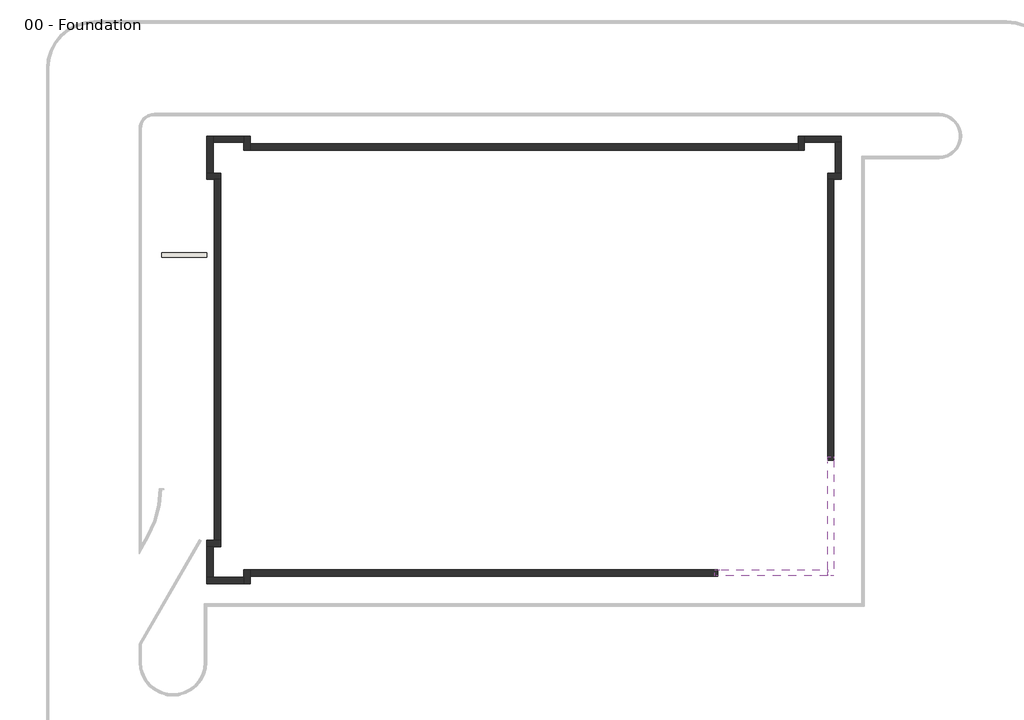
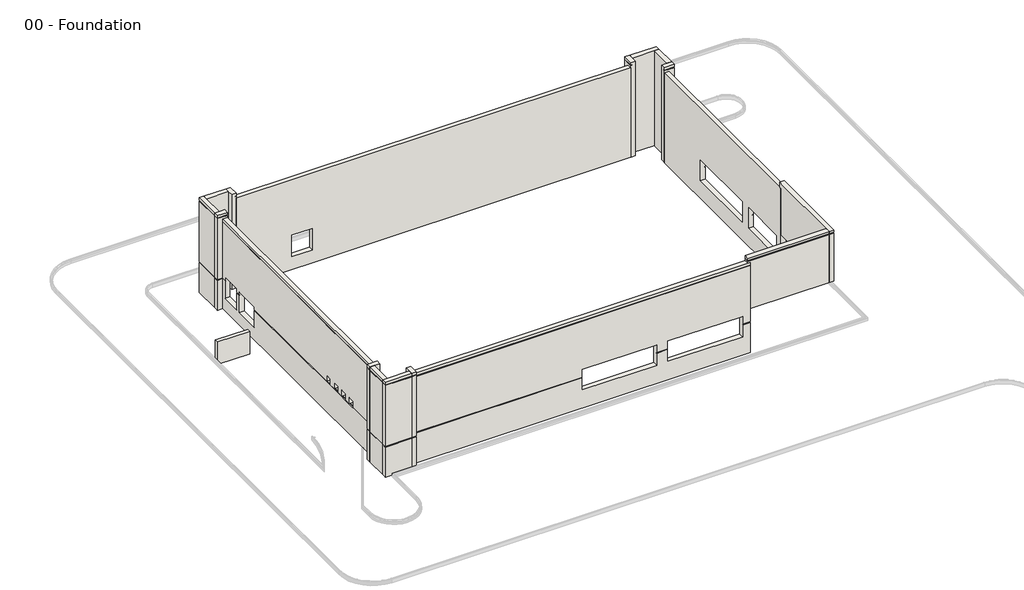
# One storey, part 1 of 2: 19 walls.
"""IFC4 building model written with IfcOpenShell, lengths in millimetres."""

from ifc_helpers import new_model, si_unit, frame, origin, place, context, project, spatial, polyline, outline, extrude, faceted_brep, element, save

model = new_model("IFC4")

# Units and contexts
model_context = context("Model", 3, world=origin())
ifc_project = project(units=[si_unit("LENGTHUNIT", "METRE", prefix="MILLI")], contexts=[model_context])

# Site, building, storey
site = spatial("IfcSite", under=ifc_project)
building = spatial("IfcBuilding", under=site)
storey = spatial("IfcBuildingStorey", under=building, Name="00 - Foundation", Elevation=-1250.0)

# Walls
placement = place(None, origin())
element("IfcWall", 1, ObjectType="Exterior - Render on Brick on Block @ Entry", at=placement, inside=storey, context=model_context, shape_type="Brep", body=[
    faceted_brep([(18351.5272279, -6696.4313057, 3000.0), (18351.5272279, -13977.9313057, 3000.0), (18351.5272279, -14406.9313057, 3000.0), (18351.5272279, -14406.9313057, 7700.0), (18351.5272279, -14331.9313057, 7700.0), (18351.5272279, -14331.9313057, 7775.0), (18351.5272279, -14406.9313057, 7775.0), (18351.5272279, -14406.9313057, 8000.0), (18351.5272279, -13977.9313057, 8000.0), (18351.5272279, -6910.9313057, 8000.0), (18351.5272279, -6481.9313057, 8000.0), (18351.5272279, -6481.9313057, 7775.0), (18351.5272279, -6556.9313057, 7775.0), (18351.5272279, -6556.9313057, 7700.0), (18351.5272279, -6481.9313057, 7700.0), (18351.5272279, -6481.9313057, 7500.0), (18351.5272279, -6696.4313057, 7500.0), (18780.5272279, -14406.9313057, 3000.0), (18780.5272279, -6696.4313057, 3000.0), (18780.5272279, -6696.4313057, 7200.0), (18780.5272279, -6696.4313057, 7275.0), (18780.5272279, -6696.4313057, 7500.0), (18780.5272279, -6481.9313057, 7500.0), (18780.5272279, -6481.9313057, 7700.0), (18780.5272279, -14406.9313057, 7700.0), (18780.5272279, -6481.9313057, 8000.0), (18780.5272279, -14406.9313057, 8000.0), (18780.5272279, -14406.9313057, 7775.0), (18780.5272279, -6481.9313057, 7775.0), (18705.5272279, -6556.9313057, 7700.0), (18705.5272279, -6556.9313057, 7775.0), (18705.5272279, -14331.9313057, 7775.0), (18705.5272279, -14331.9313057, 7700.0)], [[[0, 1, 2, 3, 4, 5, 6, 7, 8, 9, 10, 11, 12, 13, 14, 15, 16]], [[17, 18, 19, 20, 21, 22, 23, 24]], [[25, 26, 27, 28]], [[2, 1, 0, 18, 17]], [[10, 9, 8, 7, 26, 25]], [[29, 30, 31, 32]], [[2, 17, 24, 3]], [[26, 7, 6, 27]], [[31, 30, 12, 11, 28, 27, 6, 5]], [[29, 32, 4, 3, 24, 23, 14, 13]], [[30, 29, 13, 12]], [[32, 31, 5, 4]], [[18, 0, 16, 21, 20, 19]], [[22, 21, 16, 15]], [[10, 25, 28, 11]], [[22, 15, 14, 23]]]),
])
element("IfcWall", 2, ObjectType="Exterior - Render on Brick on Block @ Entry", at=placement, inside=storey, context=model_context, shape_type="Brep", body=[
    faceted_brep([(18351.5272279, -13977.9313057, 3000.0), (11070.0272279, -13977.9313057, 3000.0), (11070.0272279, -13977.9313057, 7500.0), (10855.5272279, -13977.9313057, 7500.0), (10855.5272279, -13977.9313057, 7700.0), (10930.5272279, -13977.9313057, 7700.0), (10930.5272279, -13977.9313057, 7775.0), (10855.5272279, -13977.9313057, 7775.0), (10855.5272279, -13977.9313057, 8000.0), (11284.5272279, -13977.9313057, 8000.0), (18351.5272279, -13977.9313057, 8000.0), (11070.0272279, -14406.9313057, 3000.0), (18351.5272279, -14406.9313057, 3000.0), (18351.5272279, -14406.9313057, 7700.0), (10855.5272279, -14406.9313057, 7700.0), (10855.5272279, -14406.9313057, 7500.0), (11070.0272279, -14406.9313057, 7500.0), (11070.0272279, -14406.9313057, 7275.0), (11070.0272279, -14406.9313057, 7200.0), (18351.5272279, -14406.9313057, 8000.0), (10855.5272279, -14406.9313057, 8000.0), (10855.5272279, -14406.9313057, 7775.0), (18351.5272279, -14406.9313057, 7775.0), (18351.5272279, -14331.9313057, 7700.0), (18351.5272279, -14331.9313057, 7775.0), (10930.5272279, -14331.9313057, 7775.0), (10930.5272279, -14331.9313057, 7700.0)], [[[0, 1, 2, 3, 4, 5, 6, 7, 8, 9, 10]], [[11, 12, 13, 14, 15, 16, 17, 18]], [[19, 20, 21, 22]], [[1, 0, 12, 11]], [[10, 9, 8, 20, 19]], [[23, 24, 25, 26]], [[0, 10, 19, 22, 24, 23, 13, 12]], [[22, 21, 7, 6, 25, 24]], [[14, 13, 23, 26, 5, 4]], [[1, 11, 18, 17, 16, 2]], [[3, 2, 16, 15]], [[3, 15, 14, 4]], [[20, 8, 7, 21]], [[26, 25, 6, 5]]]),
])
element("IfcWall", 3, ObjectType="Exterior - Render on Brick on Block", at=placement, inside=storey, context=model_context, shape_type="Brep", body=[
    faceted_brep([(11070.0272279, -13977.9313057, -1250.0), (-20031.4727721, -13977.9313057, -1250.0), (-20031.4727721, -13977.9313057, 7500.0), (10855.5272279, -13977.9313057, 7500.0), (11070.0272279, -13977.9313057, 7500.0), (11070.0272279, -13977.9313057, 3000.0), (-4494.4727721, -13977.9313057, 2500.0), (-4494.4727721, -13977.9313057, 500.0), (2430.5272279, -13977.9313057, 500.0), (2430.5272279, -13977.9313057, 2500.0), (10355.5272279, -13977.9313057, 500.0), (10355.5272279, -13977.9313057, 2500.0), (3430.5272279, -13977.9313057, 2500.0), (3430.5272279, -13977.9313057, 500.0), (11070.0272279, -14406.9313057, 7500.0), (-20031.4727721, -14406.9313057, 7500.0), (-20031.4727721, -14406.9313057, 7275.0), (11070.0272279, -14406.9313057, 7275.0), (-20031.4727721, -14406.9313057, -1250.0), (11070.0272279, -14406.9313057, -1250.0), (11070.0272279, -14406.9313057, 1675.0), (10355.5272279, -14406.9313057, 1675.0), (10355.5272279, -14406.9313057, 500.0), (3430.5272279, -14406.9313057, 500.0), (3430.5272279, -14406.9313057, 1675.0), (2430.5272279, -14406.9313057, 1675.0), (2430.5272279, -14406.9313057, 500.0), (-4494.4727721, -14406.9313057, 500.0), (-4494.4727721, -14406.9313057, 1675.0), (-20031.4727721, -14406.9313057, 1675.0), (-20031.4727721, -14406.9313057, 1750.0), (-4494.4727721, -14406.9313057, 1750.0), (-4494.4727721, -14406.9313057, 2500.0), (2430.5272279, -14406.9313057, 2500.0), (2430.5272279, -14406.9313057, 1750.0), (3430.5272279, -14406.9313057, 1750.0), (3430.5272279, -14406.9313057, 2500.0), (10355.5272279, -14406.9313057, 2500.0), (10355.5272279, -14406.9313057, 1750.0), (11070.0272279, -14406.9313057, 1750.0), (11070.0272279, -14406.9313057, 7200.0), (-20031.4727721, -14406.9313057, 7200.0), (11070.0272279, -14331.9313057, 7275.0), (11070.0272279, -14331.9313057, 7200.0), (11070.0272279, -14331.9313057, 1750.0), (11070.0272279, -14331.9313057, 1675.0), (11070.0272279, -14381.9313057, -1250.0), (-20031.4727721, -14381.9313057, -1250.0), (-20031.4727721, -14331.9313057, 1750.0), (-4494.4727721, -14331.9313057, 1750.0), (-4494.4727721, -14331.9313057, 1675.0), (-20031.4727721, -14331.9313057, 1675.0), (-20031.4727721, -14331.9313057, 7275.0), (-20031.4727721, -14331.9313057, 7200.0), (2430.5272279, -14331.9313057, 1675.0), (2430.5272279, -14331.9313057, 1750.0), (3430.5272279, -14331.9313057, 1750.0), (3430.5272279, -14331.9313057, 1675.0), (10355.5272279, -14331.9313057, 1675.0), (10355.5272279, -14331.9313057, 1750.0)], [[[0, 1, 2, 3, 4, 5], [6, 7, 8, 9], [10, 11, 12, 13]], [[14, 15, 16, 17]], [[18, 19, 20, 21, 22, 23, 24, 25, 26, 27, 28, 29]], [[30, 31, 32, 33, 34, 35, 36, 37, 38, 39, 40, 41]], [[4, 3, 2, 15, 14]], [[0, 5, 4, 14, 17, 42, 43, 40, 39, 44, 45, 20, 19, 46]], [[1, 0, 46, 47]], [[46, 19, 18, 47]], [[31, 30, 48, 49]], [[29, 28, 50, 51]], [[49, 48, 51, 50]], [[52, 42, 17, 16]], [[43, 53, 41, 40]], [[42, 52, 53, 43]], [[2, 1, 47, 18, 29, 51, 48, 30, 41, 53, 52, 16, 15]], [[27, 7, 6, 32, 31, 49, 50, 28]], [[32, 6, 9, 33]], [[33, 9, 8, 26, 25, 54, 55, 34]], [[7, 27, 26, 8]], [[55, 56, 35, 34]], [[57, 54, 25, 24]], [[56, 55, 54, 57]], [[10, 22, 21, 58, 59, 38, 37, 11]], [[11, 37, 36, 12]], [[12, 36, 35, 56, 57, 24, 23, 13]], [[22, 10, 13, 23]], [[59, 44, 39, 38]], [[45, 58, 21, 20]], [[44, 59, 58, 45]]]),
])
element("IfcWall", 4, ObjectType="Exterior - Render on Brick on Block", at=placement, inside=storey, context=model_context, shape_type="Brep", body=[
    faceted_brep([(-20460.4727721, -13977.9313057, -1250.0), (-20460.4727721, -14477.7313057, -1250.0), (-20460.4727721, -14906.7313057, -1250.0), (-20460.4727721, -14906.7313057, 1675.0), (-20460.4727721, -14831.7313057, 1675.0), (-20460.4727721, -14831.7313057, 1750.0), (-20460.4727721, -14906.7313057, 1750.0), (-20460.4727721, -14906.7313057, 7700.0), (-20460.4727721, -14831.7313057, 7700.0), (-20460.4727721, -14831.7313057, 7775.0), (-20460.4727721, -14906.7313057, 7775.0), (-20460.4727721, -14906.7313057, 8000.0), (-20460.4727721, -14477.7313057, 8000.0), (-20460.4727721, -13977.9313057, 8000.0), (-20031.4727721, -13977.9313057, 8000.0), (-20031.4727721, -14906.7313057, 8000.0), (-20031.4727721, -14906.7313057, 7775.0), (-20031.4727721, -13977.9313057, 7775.0), (-20031.4727721, -14906.7313057, -1250.0), (-20031.4727721, -14406.9313057, -1250.0), (-20031.4727721, -13977.9313057, -1250.0), (-20031.4727721, -13977.9313057, 7500.0), (-20031.4727721, -13977.9313057, 7700.0), (-20031.4727721, -14906.7313057, 7700.0), (-20031.4727721, -14906.7313057, 1750.0), (-20031.4727721, -14406.9313057, 1750.0), (-20031.4727721, -14331.9313057, 1750.0), (-20031.4727721, -14331.9313057, 1675.0), (-20031.4727721, -14406.9313057, 1675.0), (-20031.4727721, -14906.7313057, 1675.0), (-20056.4727721, -13977.9313057, -1250.0), (-20056.4727721, -14906.7313057, -1250.0), (-20106.4727721, -14331.9313057, 1675.0), (-20106.4727721, -14331.9313057, 1750.0), (-20106.4727721, -14831.7313057, 1750.0), (-20106.4727721, -14831.7313057, 1675.0), (-20106.4727721, -14831.7313057, 7775.0), (-20106.4727721, -13977.9313057, 7775.0), (-20106.4727721, -13977.9313057, 7700.0), (-20106.4727721, -14831.7313057, 7700.0)], [[[0, 1, 2, 3, 4, 5, 6, 7, 8, 9, 10, 11, 12, 13]], [[14, 15, 16, 17]], [[18, 19, 20, 21, 22, 23, 24, 25, 26, 27, 28, 29]], [[13, 12, 11, 15, 14]], [[2, 1, 0, 30, 31]], [[32, 33, 34, 35]], [[36, 37, 17, 16, 10, 9]], [[38, 39, 8, 7, 23, 22]], [[37, 36, 39, 38]], [[0, 13, 14, 17, 37, 38, 22, 21, 20, 30]], [[20, 19, 18, 31, 30]], [[34, 33, 26, 25, 24, 6, 5]], [[32, 35, 4, 3, 29, 28, 27]], [[33, 32, 27, 26]], [[15, 11, 10, 16]], [[2, 31, 18, 29, 3]], [[6, 24, 23, 7]], [[35, 34, 5, 4]], [[39, 36, 9, 8]]]),
])
element("IfcWall", 5, ObjectType="Exterior - Render on Brick on Block", at=placement, inside=storey, context=model_context, shape_type="Brep", body=[
    faceted_brep([(-20460.4727721, -14477.7313057, -1250.0), (-22490.4727721, -14477.7313057, -1250.0), (-22919.4727721, -14477.7313057, -1250.0), (-22919.4727721, -14477.7313057, 1675.0), (-22844.4727721, -14477.7313057, 1675.0), (-22844.4727721, -14477.7313057, 1750.0), (-22919.4727721, -14477.7313057, 1750.0), (-22919.4727721, -14477.7313057, 7700.0), (-22844.4727721, -14477.7313057, 7700.0), (-22844.4727721, -14477.7313057, 7775.0), (-22919.4727721, -14477.7313057, 7775.0), (-22919.4727721, -14477.7313057, 8000.0), (-22490.4727721, -14477.7313057, 8000.0), (-20460.4727721, -14477.7313057, 8000.0), (-20460.4727721, -14906.7313057, 8000.0), (-22919.4727721, -14906.7313057, 8000.0), (-22919.4727721, -14906.7313057, 7775.0), (-20460.4727721, -14906.7313057, 7775.0), (-22919.4727721, -14906.7313057, -1250.0), (-20460.4727721, -14906.7313057, -1250.0), (-20460.4727721, -14906.7313057, 1675.0), (-22919.4727721, -14906.7313057, 1675.0), (-22919.4727721, -14906.7313057, 1750.0), (-20460.4727721, -14906.7313057, 1750.0), (-20460.4727721, -14906.7313057, 7700.0), (-22919.4727721, -14906.7313057, 7700.0), (-20460.4727721, -14881.7313057, -1250.0), (-22919.4727721, -14881.7313057, -1250.0), (-22844.4727721, -14831.7313057, 1675.0), (-20460.4727721, -14831.7313057, 1675.0), (-20460.4727721, -14831.7313057, 1750.0), (-22844.4727721, -14831.7313057, 1750.0), (-22844.4727721, -14831.7313057, 7775.0), (-22844.4727721, -14831.7313057, 7700.0), (-20460.4727721, -14831.7313057, 7700.0), (-20460.4727721, -14831.7313057, 7775.0)], [[[0, 1, 2, 3, 4, 5, 6, 7, 8, 9, 10, 11, 12, 13]], [[14, 15, 16, 17]], [[18, 19, 20, 21]], [[22, 23, 24, 25]], [[13, 12, 11, 15, 14]], [[2, 1, 0, 26, 27]], [[28, 29, 30, 31]], [[32, 33, 34, 35]], [[0, 13, 14, 17, 35, 34, 24, 23, 30, 29, 20, 19, 26]], [[19, 18, 27, 26]], [[31, 30, 23, 22, 6, 5]], [[29, 28, 4, 3, 21, 20]], [[9, 32, 35, 17, 16, 10]], [[34, 33, 8, 7, 25, 24]], [[15, 11, 10, 16]], [[2, 27, 18, 21, 3]], [[6, 22, 25, 7]], [[28, 31, 5, 4]], [[33, 32, 9, 8]]]),
])
element("IfcWall", 6, ObjectType="Exterior - Render on Brick on Block", at=placement, inside=storey, context=model_context, shape_type="SweptSolid", body=[
    extrude(outline(polyline([(-1250.0, -22490.4727721), (8000.0, -22490.4727721), (8000.0, -22919.4727721), (7775.0, -22919.4727721), (7775.0, -22844.4727721), (7700.0, -22844.4727721), (7700.0, -22919.4727721), (1750.0, -22919.4727721), (1750.0, -22844.4727721), (1675.0, -22844.4727721), (1675.0, -22919.4727721), (-1250.0, -22919.4727721), (-1250.0, -22894.4727721), (-1250.0, -22490.4727721)])), frame((0.0, -14477.7313057, 0.0), z_axis=(0.0, 1.0, 0.0), x_axis=(0.0, 0.0, 1.0)), (0.0, 0.0, 1.0), 2030.0),
])
element("IfcWall", 7, ObjectType="Exterior - Render on Brick on Block", at=placement, inside=storey, context=model_context, shape_type="Brep", body=[
    faceted_brep([(-22919.4727721, -12447.7313057, -1250.0), (-22490.4727721, -12447.7313057, -1250.0), (-21990.4727721, -12447.7313057, -1250.0), (-21990.4727721, -12447.7313057, 8000.0), (-22490.4727721, -12447.7313057, 8000.0), (-22919.4727721, -12447.7313057, 8000.0), (-22919.4727721, -12447.7313057, 7775.0), (-22844.4727721, -12447.7313057, 7775.0), (-22844.4727721, -12447.7313057, 7700.0), (-22919.4727721, -12447.7313057, 7700.0), (-22919.4727721, -12447.7313057, 1750.0), (-22844.4727721, -12447.7313057, 1750.0), (-22844.4727721, -12447.7313057, 1675.0), (-22919.4727721, -12447.7313057, 1675.0), (-22919.4727721, -12018.7313057, 8000.0), (-21990.4727721, -12018.7313057, 8000.0), (-21990.4727721, -12018.7313057, 7775.0), (-22919.4727721, -12018.7313057, 7775.0), (-21990.4727721, -12018.7313057, -1250.0), (-22419.4727721, -12018.7313057, -1250.0), (-22919.4727721, -12018.7313057, -1250.0), (-22919.4727721, -12018.7313057, 1675.0), (-22419.4727721, -12018.7313057, 1675.0), (-22344.4727721, -12018.7313057, 1675.0), (-22344.4727721, -12018.7313057, 1750.0), (-22419.4727721, -12018.7313057, 1750.0), (-22919.4727721, -12018.7313057, 1750.0), (-22919.4727721, -12018.7313057, 7700.0), (-21990.4727721, -12018.7313057, 7700.0), (-21990.4727721, -12018.7313057, 7500.0), (-22919.4727721, -12043.7313057, -1250.0), (-21990.4727721, -12043.7313057, -1250.0), (-22844.4727721, -12093.7313057, 1675.0), (-22844.4727721, -12093.7313057, 1750.0), (-22344.4727721, -12093.7313057, 1750.0), (-22344.4727721, -12093.7313057, 1675.0), (-22844.4727721, -12093.7313057, 7775.0), (-21990.4727721, -12093.7313057, 7775.0), (-21990.4727721, -12093.7313057, 7700.0), (-22844.4727721, -12093.7313057, 7700.0)], [[[0, 1, 2, 3, 4, 5, 6, 7, 8, 9, 10, 11, 12, 13]], [[14, 15, 16, 17]], [[18, 19, 20, 21, 22, 23, 24, 25, 26, 27, 28, 29]], [[5, 4, 3, 15, 14]], [[2, 1, 0, 30, 31]], [[32, 33, 34, 35]], [[36, 37, 38, 39]], [[5, 14, 17, 6]], [[30, 0, 13, 21, 20]], [[26, 10, 9, 27]], [[20, 19, 18, 31, 30]], [[34, 33, 11, 10, 26, 25, 24]], [[32, 35, 23, 22, 21, 13, 12]], [[33, 32, 12, 11]], [[37, 36, 7, 6, 17, 16]], [[39, 38, 28, 27, 9, 8]], [[36, 39, 8, 7]], [[3, 2, 31, 18, 29, 28, 38, 37, 16, 15]], [[35, 34, 24, 23]]]),
])
element("IfcWall", 8, ObjectType="Exterior - Render on Brick on Block", at=placement, inside=storey, context=model_context, shape_type="Brep", body=[
    faceted_brep([(-21990.4727721, -12018.7313057, -1250.0), (-21990.4727721, 11955.0686943, -1250.0), (-21990.4727721, 11955.0686943, 7500.0), (-21990.4727721, -12018.7313057, 7500.0), (-21990.4727721, 9255.0686943, 2000.0), (-21990.4727721, 9255.0686943, 0.0), (-21990.4727721, 6855.0686943, 0.0), (-21990.4727721, 6855.0686943, 2000.0), (-21990.4727721, 9655.0686943, 2100.0), (-21990.4727721, 11555.0686943, 2100.0), (-21990.4727721, 11555.0686943, 0.0), (-21990.4727721, 9655.0686943, 0.0), (-21990.4727721, -5291.1813057, 1750.0), (-21990.4727721, -5291.1813057, 2360.0), (-21990.4727721, -4681.1813057, 2360.0), (-21990.4727721, -4681.1813057, 1750.0), (-21990.4727721, -6501.1813057, 1750.0), (-21990.4727721, -6501.1813057, 2360.0), (-21990.4727721, -5891.1813057, 2360.0), (-21990.4727721, -5891.1813057, 1750.0), (-21990.4727721, -7711.1813057, 1750.0), (-21990.4727721, -7711.1813057, 2360.0), (-21990.4727721, -7101.1813057, 2360.0), (-21990.4727721, -7101.1813057, 1750.0), (-21990.4727721, -8921.1813057, 1750.0), (-21990.4727721, -8921.1813057, 2360.0), (-21990.4727721, -8311.1813057, 2360.0), (-21990.4727721, -8311.1813057, 1750.0), (-22419.4727721, -12018.7313057, 7500.0), (-22419.4727721, 11955.0686943, 7500.0), (-22419.4727721, 11955.0686943, 7275.0), (-22419.4727721, -12018.7313057, 7275.0), (-22419.4727721, 11955.0686943, -1250.0), (-22419.4727721, -12018.7313057, -1250.0), (-22419.4727721, -12018.7313057, 1675.0), (-22419.4727721, 6855.0686943, 1675.0), (-22419.4727721, 6855.0686943, 0.0), (-22419.4727721, 9255.0686943, 0.0), (-22419.4727721, 9255.0686943, 1675.0), (-22419.4727721, 9655.0686943, 1675.0), (-22419.4727721, 9655.0686943, 0.0), (-22419.4727721, 11555.0686943, 0.0), (-22419.4727721, 11555.0686943, 1675.0), (-22419.4727721, 11955.0686943, 1675.0), (-22419.4727721, 11955.0686943, 1750.0), (-22419.4727721, 11555.0686943, 1750.0), (-22419.4727721, 11555.0686943, 2100.0), (-22419.4727721, 9655.0686943, 2100.0), (-22419.4727721, 9655.0686943, 1750.0), (-22419.4727721, 9255.0686943, 1750.0), (-22419.4727721, 9255.0686943, 2000.0), (-22419.4727721, 6855.0686943, 2000.0), (-22419.4727721, 6855.0686943, 1750.0), (-22419.4727721, -4681.1813057, 1750.0), (-22419.4727721, -4681.1813057, 2360.0), (-22419.4727721, -5291.1813057, 2360.0), (-22419.4727721, -5291.1813057, 1750.0), (-22419.4727721, -5891.1813057, 1750.0), (-22419.4727721, -5891.1813057, 2360.0), (-22419.4727721, -6501.1813057, 2360.0), (-22419.4727721, -6501.1813057, 1750.0), (-22419.4727721, -7101.1813057, 1750.0), (-22419.4727721, -7101.1813057, 2360.0), (-22419.4727721, -7711.1813057, 2360.0), (-22419.4727721, -7711.1813057, 1750.0), (-22419.4727721, -8311.1813057, 1750.0), (-22419.4727721, -8311.1813057, 2360.0), (-22419.4727721, -8921.1813057, 2360.0), (-22419.4727721, -8921.1813057, 1750.0), (-22419.4727721, -12018.7313057, 1750.0), (-22419.4727721, -12018.7313057, 7200.0), (-22419.4727721, 11955.0686943, 7200.0), (-22394.4727721, -12018.7313057, -1250.0), (-22394.4727721, 11955.0686943, -1250.0), (-22344.4727721, 11955.0686943, 1750.0), (-22344.4727721, 11555.0686943, 1750.0), (-22344.4727721, 11555.0686943, 1675.0), (-22344.4727721, 11955.0686943, 1675.0), (-22344.4727721, 11955.0686943, 7275.0), (-22344.4727721, -12018.7313057, 7275.0), (-22344.4727721, -12018.7313057, 7200.0), (-22344.4727721, 11955.0686943, 7200.0), (-22344.4727721, -12018.7313057, 1750.0), (-22344.4727721, -12018.7313057, 1675.0), (-22344.4727721, -8921.1813057, 1750.0), (-22344.4727721, 6855.0686943, 1750.0), (-22344.4727721, -4681.1813057, 1750.0), (-22344.4727721, -5291.1813057, 1750.0), (-22344.4727721, -5891.1813057, 1750.0), (-22344.4727721, -6501.1813057, 1750.0), (-22344.4727721, -7101.1813057, 1750.0), (-22344.4727721, -7711.1813057, 1750.0), (-22344.4727721, -8311.1813057, 1750.0), (-22344.4727721, 6855.0686943, 1675.0), (-22344.4727721, 9255.0686943, 1750.0), (-22344.4727721, 9255.0686943, 1675.0), (-22344.4727721, 9655.0686943, 1750.0), (-22344.4727721, 9655.0686943, 1675.0)], [[[0, 1, 2, 3], [4, 5, 6, 7], [8, 9, 10, 11], [12, 13, 14, 15], [16, 17, 18, 19], [20, 21, 22, 23], [24, 25, 26, 27]], [[28, 29, 30, 31]], [[32, 33, 34, 35, 36, 37, 38, 39, 40, 41, 42, 43]], [[44, 45, 46, 47, 48, 49, 50, 51, 52, 53, 54, 55, 56, 57, 58, 59, 60, 61, 62, 63, 64, 65, 66, 67, 68, 69, 70, 71]], [[3, 2, 29, 28]], [[1, 0, 72, 73]], [[45, 44, 74, 75]], [[43, 42, 76, 77]], [[77, 76, 75, 74]], [[78, 79, 31, 30]], [[80, 81, 71, 70]], [[79, 78, 81, 80]], [[0, 3, 28, 31, 79, 80, 70, 69, 82, 83, 34, 33, 72]], [[33, 32, 73, 72]], [[69, 68, 84, 82]], [[52, 85, 86, 53]], [[57, 56, 87, 88]], [[61, 60, 89, 90]], [[65, 64, 91, 92]], [[35, 34, 83, 93]], [[2, 1, 73, 32, 43, 77, 74, 44, 71, 81, 78, 30, 29]], [[5, 4, 50, 49, 94, 95, 38, 37]], [[51, 50, 4, 7]], [[7, 6, 36, 35, 93, 85, 52, 51]], [[37, 36, 6, 5]], [[94, 96, 97, 95]], [[96, 94, 49, 48]], [[95, 97, 39, 38]], [[8, 47, 46, 9]], [[47, 8, 11, 40, 39, 97, 96, 48]], [[40, 11, 10, 41]], [[9, 46, 45, 75, 76, 42, 41, 10]], [[93, 83, 82, 84, 92, 91, 90, 89, 88, 87, 86, 85]], [[13, 12, 87, 56, 55]], [[14, 13, 55, 54]], [[15, 14, 54, 53, 86]], [[12, 15, 86, 87]], [[17, 16, 89, 60, 59]], [[18, 17, 59, 58]], [[19, 18, 58, 57, 88]], [[16, 19, 88, 89]], [[21, 20, 91, 64, 63]], [[22, 21, 63, 62]], [[23, 22, 62, 61, 90]], [[20, 23, 90, 91]], [[25, 24, 84, 68, 67]], [[26, 25, 67, 66]], [[27, 26, 66, 65, 92]], [[24, 27, 92, 84]]]),
])
element("IfcWall", 9, ObjectType="Exterior - Render on Brick on Block", at=placement, inside=storey, context=model_context, shape_type="Brep", body=[
    faceted_brep([(-21990.4727721, 12384.0686943, -1250.0), (-22490.4727721, 12384.0686943, -1250.0), (-22919.4727721, 12384.0686943, -1250.0), (-22919.4727721, 12384.0686943, 1675.0), (-22844.4727721, 12384.0686943, 1675.0), (-22844.4727721, 12384.0686943, 1750.0), (-22919.4727721, 12384.0686943, 1750.0), (-22919.4727721, 12384.0686943, 7700.0), (-22844.4727721, 12384.0686943, 7700.0), (-22844.4727721, 12384.0686943, 7775.0), (-22919.4727721, 12384.0686943, 7775.0), (-22919.4727721, 12384.0686943, 8000.0), (-22490.4727721, 12384.0686943, 8000.0), (-21990.4727721, 12384.0686943, 8000.0), (-21990.4727721, 11955.0686943, 8000.0), (-22919.4727721, 11955.0686943, 8000.0), (-22919.4727721, 11955.0686943, 7775.0), (-21990.4727721, 11955.0686943, 7775.0), (-22919.4727721, 11955.0686943, -1250.0), (-22419.4727721, 11955.0686943, -1250.0), (-21990.4727721, 11955.0686943, -1250.0), (-21990.4727721, 11955.0686943, 7500.0), (-21990.4727721, 11955.0686943, 7700.0), (-22919.4727721, 11955.0686943, 7700.0), (-22919.4727721, 11955.0686943, 1750.0), (-22419.4727721, 11955.0686943, 1750.0), (-22344.4727721, 11955.0686943, 1750.0), (-22344.4727721, 11955.0686943, 1675.0), (-22419.4727721, 11955.0686943, 1675.0), (-22919.4727721, 11955.0686943, 1675.0), (-21990.4727721, 11980.0686943, -1250.0), (-22919.4727721, 11980.0686943, -1250.0), (-22344.4727721, 12030.0686943, 1675.0), (-22344.4727721, 12030.0686943, 1750.0), (-22844.4727721, 12030.0686943, 1750.0), (-22844.4727721, 12030.0686943, 1675.0), (-22844.4727721, 12030.0686943, 7775.0), (-21990.4727721, 12030.0686943, 7775.0), (-21990.4727721, 12030.0686943, 7700.0), (-22844.4727721, 12030.0686943, 7700.0)], [[[0, 1, 2, 3, 4, 5, 6, 7, 8, 9, 10, 11, 12, 13]], [[14, 15, 16, 17]], [[18, 19, 20, 21, 22, 23, 24, 25, 26, 27, 28, 29]], [[13, 12, 11, 15, 14]], [[2, 1, 0, 30, 31]], [[32, 33, 34, 35]], [[36, 37, 17, 16, 10, 9]], [[38, 39, 8, 7, 23, 22]], [[37, 36, 39, 38]], [[0, 13, 14, 17, 37, 38, 22, 21, 20, 30]], [[20, 19, 18, 31, 30]], [[34, 33, 26, 25, 24, 6, 5]], [[32, 35, 4, 3, 29, 28, 27]], [[33, 32, 27, 26]], [[15, 11, 10, 16]], [[2, 31, 18, 29, 3]], [[6, 24, 23, 7]], [[35, 34, 5, 4]], [[39, 36, 9, 8]]]),
])
element("IfcWall", 10, ObjectType="Exterior - Render on Brick on Block", at=placement, inside=storey, context=model_context, shape_type="Brep", body=[
    faceted_brep([(-22490.4727721, 12384.0686943, -1250.0), (-22490.4727721, 14414.0686943, -1250.0), (-22490.4727721, 14843.0686943, -1250.0), (-22490.4727721, 14843.0686943, 1675.0), (-22490.4727721, 14768.0686943, 1675.0), (-22490.4727721, 14768.0686943, 1750.0), (-22490.4727721, 14843.0686943, 1750.0), (-22490.4727721, 14843.0686943, 7700.0), (-22490.4727721, 14768.0686943, 7700.0), (-22490.4727721, 14768.0686943, 7775.0), (-22490.4727721, 14843.0686943, 7775.0), (-22490.4727721, 14843.0686943, 8000.0), (-22490.4727721, 14414.0686943, 8000.0), (-22490.4727721, 12384.0686943, 8000.0), (-22919.4727721, 12384.0686943, 8000.0), (-22919.4727721, 14843.0686943, 8000.0), (-22919.4727721, 14843.0686943, 7775.0), (-22919.4727721, 12384.0686943, 7775.0), (-22919.4727721, 14843.0686943, -1250.0), (-22919.4727721, 12384.0686943, -1250.0), (-22919.4727721, 12384.0686943, 1675.0), (-22919.4727721, 14843.0686943, 1675.0), (-22919.4727721, 14843.0686943, 1750.0), (-22919.4727721, 12384.0686943, 1750.0), (-22919.4727721, 12384.0686943, 7700.0), (-22919.4727721, 14843.0686943, 7700.0), (-22894.4727721, 12384.0686943, -1250.0), (-22894.4727721, 14843.0686943, -1250.0), (-22844.4727721, 14768.0686943, 1675.0), (-22844.4727721, 12384.0686943, 1675.0), (-22844.4727721, 12384.0686943, 1750.0), (-22844.4727721, 14768.0686943, 1750.0), (-22844.4727721, 14768.0686943, 7775.0), (-22844.4727721, 14768.0686943, 7700.0), (-22844.4727721, 12384.0686943, 7700.0), (-22844.4727721, 12384.0686943, 7775.0)], [[[0, 1, 2, 3, 4, 5, 6, 7, 8, 9, 10, 11, 12, 13]], [[14, 15, 16, 17]], [[18, 19, 20, 21]], [[22, 23, 24, 25]], [[13, 12, 11, 15, 14]], [[2, 1, 0, 26, 27]], [[28, 29, 30, 31]], [[32, 33, 34, 35]], [[0, 13, 14, 17, 35, 34, 24, 23, 30, 29, 20, 19, 26]], [[19, 18, 27, 26]], [[31, 30, 23, 22, 6, 5]], [[29, 28, 4, 3, 21, 20]], [[9, 32, 35, 17, 16, 10]], [[34, 33, 8, 7, 25, 24]], [[15, 11, 10, 16]], [[2, 27, 18, 21, 3]], [[6, 22, 25, 7]], [[28, 31, 5, 4]], [[33, 32, 9, 8]]]),
])
element("IfcWall", 11, ObjectType="Exterior - Render on Brick on Block", at=placement, inside=storey, context=model_context, shape_type="SweptSolid", body=[
    extrude(outline(polyline([(14414.0686943, -1250.0), (14414.0686943, 8000.0), (14843.0686943, 8000.0), (14843.0686943, 7775.0), (14768.0686943, 7775.0), (14768.0686943, 7700.0), (14843.0686943, 7700.0), (14843.0686943, 1750.0), (14768.0686943, 1750.0), (14768.0686943, 1675.0), (14843.0686943, 1675.0), (14843.0686943, -1250.0), (14818.0686943, -1250.0), (14414.0686943, -1250.0)])), frame((-22490.4727721, 0.0, 0.0), z_axis=(1.0, 0.0, 0.0), x_axis=(0.0, 1.0, 0.0)), (0.0, 0.0, 1.0), 2030.0),
])
element("IfcWall", 12, ObjectType="Exterior - Render on Brick on Block", at=placement, inside=storey, context=model_context, shape_type="Brep", body=[
    faceted_brep([(-20460.4727721, 14843.0686943, -1250.0), (-20460.4727721, 14414.0686943, -1250.0), (-20460.4727721, 13914.0686943, -1250.0), (-20460.4727721, 13914.0686943, 8000.0), (-20460.4727721, 14414.0686943, 8000.0), (-20460.4727721, 14843.0686943, 8000.0), (-20460.4727721, 14843.0686943, 7775.0), (-20460.4727721, 14768.0686943, 7775.0), (-20460.4727721, 14768.0686943, 7700.0), (-20460.4727721, 14843.0686943, 7700.0), (-20460.4727721, 14843.0686943, 1750.0), (-20460.4727721, 14768.0686943, 1750.0), (-20460.4727721, 14768.0686943, 1675.0), (-20460.4727721, 14843.0686943, 1675.0), (-20031.4727721, 14843.0686943, 8000.0), (-20031.4727721, 13914.0686943, 8000.0), (-20031.4727721, 13914.0686943, 7775.0), (-20031.4727721, 14843.0686943, 7775.0), (-20031.4727721, 13914.0686943, -1250.0), (-20031.4727721, 14343.0686943, -1250.0), (-20031.4727721, 14843.0686943, -1250.0), (-20031.4727721, 14843.0686943, 1675.0), (-20031.4727721, 14343.0686943, 1675.0), (-20031.4727721, 14268.0686943, 1675.0), (-20031.4727721, 14268.0686943, 1750.0), (-20031.4727721, 14343.0686943, 1750.0), (-20031.4727721, 14843.0686943, 1750.0), (-20031.4727721, 14843.0686943, 7700.0), (-20031.4727721, 13914.0686943, 7700.0), (-20031.4727721, 13914.0686943, 7500.0), (-20056.4727721, 14843.0686943, -1250.0), (-20056.4727721, 13914.0686943, -1250.0), (-20106.4727721, 14768.0686943, 1675.0), (-20106.4727721, 14768.0686943, 1750.0), (-20106.4727721, 14268.0686943, 1750.0), (-20106.4727721, 14268.0686943, 1675.0), (-20106.4727721, 14768.0686943, 7775.0), (-20106.4727721, 13914.0686943, 7775.0), (-20106.4727721, 13914.0686943, 7700.0), (-20106.4727721, 14768.0686943, 7700.0)], [[[0, 1, 2, 3, 4, 5, 6, 7, 8, 9, 10, 11, 12, 13]], [[14, 15, 16, 17]], [[18, 19, 20, 21, 22, 23, 24, 25, 26, 27, 28, 29]], [[5, 4, 3, 15, 14]], [[2, 1, 0, 30, 31]], [[32, 33, 34, 35]], [[36, 37, 38, 39]], [[5, 14, 17, 6]], [[30, 0, 13, 21, 20]], [[26, 10, 9, 27]], [[20, 19, 18, 31, 30]], [[34, 33, 11, 10, 26, 25, 24]], [[32, 35, 23, 22, 21, 13, 12]], [[33, 32, 12, 11]], [[37, 36, 7, 6, 17, 16]], [[39, 38, 28, 27, 9, 8]], [[36, 39, 8, 7]], [[3, 2, 31, 18, 29, 28, 38, 37, 16, 15]], [[35, 34, 24, 23]]]),
])
element("IfcWall", 13, ObjectType="Exterior - Render on Brick on Block", at=placement, inside=storey, context=model_context, shape_type="Brep", body=[
    faceted_brep([(-20031.4727721, 13914.0686943, -1250.0), (16392.5272279, 13914.0686943, -1250.0), (16392.5272279, 13914.0686943, 7500.0), (-20031.4727721, 13914.0686943, 7500.0), (-14912.4227721, 13914.0686943, 0.0), (-14912.4227721, 13914.0686943, 2100.0), (-13012.4227721, 13914.0686943, 2100.0), (-13012.4227721, 13914.0686943, 0.0), (-20031.4727721, 14343.0686943, 7500.0), (16392.5272279, 14343.0686943, 7500.0), (16392.5272279, 14343.0686943, 7275.0), (-20031.4727721, 14343.0686943, 7275.0), (16392.5272279, 14343.0686943, -1250.0), (-20031.4727721, 14343.0686943, -1250.0), (-20031.4727721, 14343.0686943, 1675.0), (-14912.4227721, 14343.0686943, 1675.0), (-14912.4227721, 14343.0686943, 0.0), (-13012.4227721, 14343.0686943, 0.0), (-13012.4227721, 14343.0686943, 1675.0), (16392.5272279, 14343.0686943, 1675.0), (16392.5272279, 14343.0686943, 1750.0), (-13012.4227721, 14343.0686943, 1750.0), (-13012.4227721, 14343.0686943, 2100.0), (-14912.4227721, 14343.0686943, 2100.0), (-14912.4227721, 14343.0686943, 1750.0), (-20031.4727721, 14343.0686943, 1750.0), (-20031.4727721, 14343.0686943, 7200.0), (16392.5272279, 14343.0686943, 7200.0), (-20031.4727721, 14318.0686943, -1250.0), (16392.5272279, 14318.0686943, -1250.0), (16392.5272279, 14268.0686943, 1750.0), (-13012.4227721, 14268.0686943, 1750.0), (-13012.4227721, 14268.0686943, 1675.0), (16392.5272279, 14268.0686943, 1675.0), (16392.5272279, 14268.0686943, 7275.0), (-20031.4727721, 14268.0686943, 7275.0), (-20031.4727721, 14268.0686943, 7200.0), (16392.5272279, 14268.0686943, 7200.0), (-20031.4727721, 14268.0686943, 1750.0), (-20031.4727721, 14268.0686943, 1675.0), (-14912.4227721, 14268.0686943, 1750.0), (-14912.4227721, 14268.0686943, 1675.0)], [[[0, 1, 2, 3], [4, 5, 6, 7]], [[8, 9, 10, 11]], [[12, 13, 14, 15, 16, 17, 18, 19]], [[20, 21, 22, 23, 24, 25, 26, 27]], [[3, 2, 9, 8]], [[1, 0, 28, 29]], [[21, 20, 30, 31]], [[19, 18, 32, 33]], [[33, 32, 31, 30]], [[34, 35, 11, 10]], [[36, 37, 27, 26]], [[35, 34, 37, 36]], [[0, 3, 8, 11, 35, 36, 26, 25, 38, 39, 14, 13, 28]], [[13, 12, 29, 28]], [[25, 24, 40, 38]], [[15, 14, 39, 41]], [[2, 1, 29, 12, 19, 33, 30, 20, 27, 37, 34, 10, 9]], [[5, 4, 16, 15, 41, 40, 24, 23]], [[6, 5, 23, 22]], [[7, 6, 22, 21, 31, 32, 18, 17]], [[4, 7, 17, 16]], [[38, 40, 41, 39]]]),
])
element("IfcWall", 14, ObjectType="Exterior - Render on Brick on Block", at=placement, inside=storey, context=model_context, shape_type="Brep", body=[
    faceted_brep([(16821.5272279, 13914.0686943, -1250.0), (16821.5272279, 14414.0686943, -1250.0), (16821.5272279, 14843.0686943, -1250.0), (16821.5272279, 14843.0686943, 1675.0), (16821.5272279, 14768.0686943, 1675.0), (16821.5272279, 14768.0686943, 1750.0), (16821.5272279, 14843.0686943, 1750.0), (16821.5272279, 14843.0686943, 7700.0), (16821.5272279, 14768.0686943, 7700.0), (16821.5272279, 14768.0686943, 7775.0), (16821.5272279, 14843.0686943, 7775.0), (16821.5272279, 14843.0686943, 8000.0), (16821.5272279, 14414.0686943, 8000.0), (16821.5272279, 13914.0686943, 8000.0), (16392.5272279, 13914.0686943, 8000.0), (16392.5272279, 14843.0686943, 8000.0), (16392.5272279, 14843.0686943, 7775.0), (16392.5272279, 13914.0686943, 7775.0), (16392.5272279, 14843.0686943, -1250.0), (16392.5272279, 14343.0686943, -1250.0), (16392.5272279, 13914.0686943, -1250.0), (16392.5272279, 13914.0686943, 7500.0), (16392.5272279, 13914.0686943, 7700.0), (16392.5272279, 14843.0686943, 7700.0), (16392.5272279, 14843.0686943, 1750.0), (16392.5272279, 14343.0686943, 1750.0), (16392.5272279, 14268.0686943, 1750.0), (16392.5272279, 14268.0686943, 1675.0), (16392.5272279, 14343.0686943, 1675.0), (16392.5272279, 14843.0686943, 1675.0), (16417.5272279, 13914.0686943, -1250.0), (16417.5272279, 14843.0686943, -1250.0), (16467.5272279, 14268.0686943, 1675.0), (16467.5272279, 14268.0686943, 1750.0), (16467.5272279, 14768.0686943, 1750.0), (16467.5272279, 14768.0686943, 1675.0), (16467.5272279, 14768.0686943, 7775.0), (16467.5272279, 13914.0686943, 7775.0), (16467.5272279, 13914.0686943, 7700.0), (16467.5272279, 14768.0686943, 7700.0)], [[[0, 1, 2, 3, 4, 5, 6, 7, 8, 9, 10, 11, 12, 13]], [[14, 15, 16, 17]], [[18, 19, 20, 21, 22, 23, 24, 25, 26, 27, 28, 29]], [[13, 12, 11, 15, 14]], [[2, 1, 0, 30, 31]], [[32, 33, 34, 35]], [[36, 37, 17, 16, 10, 9]], [[38, 39, 8, 7, 23, 22]], [[37, 36, 39, 38]], [[0, 13, 14, 17, 37, 38, 22, 21, 20, 30]], [[20, 19, 18, 31, 30]], [[34, 33, 26, 25, 24, 6, 5]], [[32, 35, 4, 3, 29, 28, 27]], [[33, 32, 27, 26]], [[15, 11, 10, 16]], [[2, 31, 18, 29, 3]], [[6, 24, 23, 7]], [[35, 34, 5, 4]], [[39, 36, 9, 8]]]),
])
element("IfcWall", 15, ObjectType="Exterior - Render on Brick on Block", at=placement, inside=storey, context=model_context, shape_type="Brep", body=[
    faceted_brep([(16821.5272279, 14414.0686943, -1250.0), (18851.5272279, 14414.0686943, -1250.0), (19280.5272279, 14414.0686943, -1250.0), (19280.5272279, 14414.0686943, 1675.0), (19205.5272279, 14414.0686943, 1675.0), (19205.5272279, 14414.0686943, 1750.0), (19280.5272279, 14414.0686943, 1750.0), (19280.5272279, 14414.0686943, 7700.0), (19205.5272279, 14414.0686943, 7700.0), (19205.5272279, 14414.0686943, 7775.0), (19280.5272279, 14414.0686943, 7775.0), (19280.5272279, 14414.0686943, 8000.0), (18851.5272279, 14414.0686943, 8000.0), (16821.5272279, 14414.0686943, 8000.0), (16821.5272279, 14843.0686943, 8000.0), (19280.5272279, 14843.0686943, 8000.0), (19280.5272279, 14843.0686943, 7775.0), (16821.5272279, 14843.0686943, 7775.0), (19280.5272279, 14843.0686943, -1250.0), (16821.5272279, 14843.0686943, -1250.0), (16821.5272279, 14843.0686943, 1675.0), (19280.5272279, 14843.0686943, 1675.0), (19280.5272279, 14843.0686943, 1750.0), (16821.5272279, 14843.0686943, 1750.0), (16821.5272279, 14843.0686943, 7700.0), (19280.5272279, 14843.0686943, 7700.0), (16821.5272279, 14818.0686943, -1250.0), (19280.5272279, 14818.0686943, -1250.0), (19205.5272279, 14768.0686943, 1675.0), (16821.5272279, 14768.0686943, 1675.0), (16821.5272279, 14768.0686943, 1750.0), (19205.5272279, 14768.0686943, 1750.0), (19205.5272279, 14768.0686943, 7775.0), (19205.5272279, 14768.0686943, 7700.0), (16821.5272279, 14768.0686943, 7700.0), (16821.5272279, 14768.0686943, 7775.0)], [[[0, 1, 2, 3, 4, 5, 6, 7, 8, 9, 10, 11, 12, 13]], [[14, 15, 16, 17]], [[18, 19, 20, 21]], [[22, 23, 24, 25]], [[13, 12, 11, 15, 14]], [[2, 1, 0, 26, 27]], [[28, 29, 30, 31]], [[32, 33, 34, 35]], [[0, 13, 14, 17, 35, 34, 24, 23, 30, 29, 20, 19, 26]], [[19, 18, 27, 26]], [[31, 30, 23, 22, 6, 5]], [[29, 28, 4, 3, 21, 20]], [[9, 32, 35, 17, 16, 10]], [[34, 33, 8, 7, 25, 24]], [[15, 11, 10, 16]], [[2, 27, 18, 21, 3]], [[6, 22, 25, 7]], [[28, 31, 5, 4]], [[33, 32, 9, 8]]]),
])
element("IfcWall", 16, ObjectType="Exterior - Render on Brick on Block", at=placement, inside=storey, context=model_context, shape_type="SweptSolid", body=[
    extrude(outline(polyline([(8000.0, 18851.5272279), (-1250.0, 18851.5272279), (-1250.0, 19255.5272279), (-1250.0, 19280.5272279), (1675.0, 19280.5272279), (1675.0, 19205.5272279), (1750.0, 19205.5272279), (1750.0, 19280.5272279), (7700.0, 19280.5272279), (7700.0, 19205.5272279), (7775.0, 19205.5272279), (7775.0, 19280.5272279), (8000.0, 19280.5272279), (8000.0, 18851.5272279)])), frame((0.0, 12384.0686943, 0.0), z_axis=(0.0, 1.0, 0.0), x_axis=(0.0, 0.0, 1.0)), (0.0, 0.0, 1.0), 2030.0),
])
element("IfcWall", 17, ObjectType="Exterior - Render on Brick on Block", at=placement, inside=storey, context=model_context, shape_type="Brep", body=[
    faceted_brep([(19280.5272279, 12384.0686943, -1250.0), (18851.5272279, 12384.0686943, -1250.0), (18351.5272279, 12384.0686943, -1250.0), (18351.5272279, 12384.0686943, 8000.0), (18851.5272279, 12384.0686943, 8000.0), (19280.5272279, 12384.0686943, 8000.0), (19280.5272279, 12384.0686943, 7775.0), (19205.5272279, 12384.0686943, 7775.0), (19205.5272279, 12384.0686943, 7700.0), (19280.5272279, 12384.0686943, 7700.0), (19280.5272279, 12384.0686943, 1750.0), (19205.5272279, 12384.0686943, 1750.0), (19205.5272279, 12384.0686943, 1675.0), (19280.5272279, 12384.0686943, 1675.0), (19280.5272279, 11955.0686943, 8000.0), (18351.5272279, 11955.0686943, 8000.0), (18351.5272279, 11955.0686943, 7775.0), (19280.5272279, 11955.0686943, 7775.0), (18351.5272279, 11955.0686943, -1250.0), (18780.5272279, 11955.0686943, -1250.0), (19280.5272279, 11955.0686943, -1250.0), (19280.5272279, 11955.0686943, 1675.0), (18780.5272279, 11955.0686943, 1675.0), (18705.5272279, 11955.0686943, 1675.0), (18705.5272279, 11955.0686943, 1750.0), (18780.5272279, 11955.0686943, 1750.0), (19280.5272279, 11955.0686943, 1750.0), (19280.5272279, 11955.0686943, 7700.0), (18351.5272279, 11955.0686943, 7700.0), (18351.5272279, 11955.0686943, 7500.0), (19280.5272279, 11980.0686943, -1250.0), (18351.5272279, 11980.0686943, -1250.0), (19205.5272279, 12030.0686943, 1675.0), (19205.5272279, 12030.0686943, 1750.0), (18705.5272279, 12030.0686943, 1750.0), (18705.5272279, 12030.0686943, 1675.0), (19205.5272279, 12030.0686943, 7775.0), (18351.5272279, 12030.0686943, 7775.0), (18351.5272279, 12030.0686943, 7700.0), (19205.5272279, 12030.0686943, 7700.0)], [[[0, 1, 2, 3, 4, 5, 6, 7, 8, 9, 10, 11, 12, 13]], [[14, 15, 16, 17]], [[18, 19, 20, 21, 22, 23, 24, 25, 26, 27, 28, 29]], [[5, 4, 3, 15, 14]], [[2, 1, 0, 30, 31]], [[32, 33, 34, 35]], [[36, 37, 38, 39]], [[5, 14, 17, 6]], [[30, 0, 13, 21, 20]], [[26, 10, 9, 27]], [[20, 19, 18, 31, 30]], [[34, 33, 11, 10, 26, 25, 24]], [[32, 35, 23, 22, 21, 13, 12]], [[33, 32, 12, 11]], [[37, 36, 7, 6, 17, 16]], [[39, 38, 28, 27, 9, 8]], [[36, 39, 8, 7]], [[3, 2, 31, 18, 29, 28, 38, 37, 16, 15]], [[35, 34, 24, 23]]]),
])
element("IfcWall", 18, ObjectType="Exterior - Render on Brick on Block", at=placement, inside=storey, context=model_context, shape_type="Brep", body=[
    faceted_brep([(18351.5272279, 11955.0686943, -1250.0), (18351.5272279, -6696.4313057, -1250.0), (18351.5272279, -6696.4313057, 3000.0), (18351.5272279, -6696.4313057, 7500.0), (18351.5272279, -6481.9313057, 7500.0), (18351.5272279, 11955.0686943, 7500.0), (18351.5272279, -1523.5979723, 500.0), (18351.5272279, -1523.5979723, 2500.0), (18351.5272279, -5981.9313057, 2500.0), (18351.5272279, -5981.9313057, 500.0), (18351.5272279, 6159.735361, 500.0), (18351.5272279, 6159.735361, 2500.0), (18351.5272279, -523.5979723, 2500.0), (18351.5272279, -523.5979723, 500.0), (18780.5272279, 11955.0686943, 7500.0), (18780.5272279, -6696.4313057, 7500.0), (18780.5272279, -6696.4313057, 7275.0), (18780.5272279, 11955.0686943, 7275.0), (18780.5272279, -6696.4313057, -1250.0), (18780.5272279, 11955.0686943, -1250.0), (18780.5272279, 11955.0686943, 1675.0), (18780.5272279, 6159.735361, 1675.0), (18780.5272279, 6159.735361, 500.0), (18780.5272279, -523.5979723, 500.0), (18780.5272279, -523.5979723, 1675.0), (18780.5272279, -1523.5979723, 1675.0), (18780.5272279, -1523.5979723, 500.0), (18780.5272279, -5981.9313057, 500.0), (18780.5272279, -5981.9313057, 1675.0), (18780.5272279, -6696.4313057, 1675.0), (18780.5272279, -6696.4313057, 1750.0), (18780.5272279, -5981.9313057, 1750.0), (18780.5272279, -5981.9313057, 2500.0), (18780.5272279, -1523.5979723, 2500.0), (18780.5272279, -1523.5979723, 1750.0), (18780.5272279, -523.5979723, 1750.0), (18780.5272279, -523.5979723, 2500.0), (18780.5272279, 6159.735361, 2500.0), (18780.5272279, 6159.735361, 1750.0), (18780.5272279, 11955.0686943, 1750.0), (18780.5272279, 11955.0686943, 7200.0), (18780.5272279, -6696.4313057, 7200.0), (18755.5272279, -6696.4313057, -1250.0), (18705.5272279, -6696.4313057, 1675.0), (18705.5272279, -6696.4313057, 1750.0), (18705.5272279, -6696.4313057, 7200.0), (18705.5272279, -6696.4313057, 7275.0), (18755.5272279, 11955.0686943, -1250.0), (18705.5272279, -5981.9313057, 1750.0), (18705.5272279, -5981.9313057, 1675.0), (18705.5272279, 11955.0686943, 7275.0), (18705.5272279, 11955.0686943, 7200.0), (18705.5272279, 11955.0686943, 1750.0), (18705.5272279, 11955.0686943, 1675.0), (18705.5272279, 6159.735361, 1750.0), (18705.5272279, 6159.735361, 1675.0), (18705.5272279, -1523.5979723, 1675.0), (18705.5272279, -1523.5979723, 1750.0), (18705.5272279, -523.5979723, 1750.0), (18705.5272279, -523.5979723, 1675.0)], [[[0, 1, 2, 3, 4, 5], [6, 7, 8, 9], [10, 11, 12, 13]], [[14, 15, 16, 17]], [[18, 19, 20, 21, 22, 23, 24, 25, 26, 27, 28, 29]], [[30, 31, 32, 33, 34, 35, 36, 37, 38, 39, 40, 41]], [[3, 2, 1, 42, 18, 29, 43, 44, 30, 41, 45, 46, 16, 15]], [[5, 4, 3, 15, 14]], [[1, 0, 47, 42]], [[44, 48, 31, 30]], [[49, 43, 29, 28]], [[48, 44, 43, 49]], [[46, 50, 17, 16]], [[51, 45, 41, 40]], [[50, 46, 45, 51]], [[0, 5, 14, 17, 50, 51, 40, 39, 52, 53, 20, 19, 47]], [[19, 18, 42, 47]], [[39, 38, 54, 52]], [[21, 20, 53, 55]], [[6, 26, 25, 56, 57, 34, 33, 7]], [[7, 33, 32, 8]], [[8, 32, 31, 48, 49, 28, 27, 9]], [[26, 6, 9, 27]], [[58, 57, 56, 59]], [[10, 22, 21, 55, 54, 38, 37, 11]], [[11, 37, 36, 12]], [[12, 36, 35, 58, 59, 24, 23, 13]], [[22, 10, 13, 23]], [[52, 54, 55, 53]], [[57, 58, 35, 34]], [[59, 56, 25, 24]]]),
])
element("IfcWall", 19, ObjectType="Foundation - 300mm Concrete", at=placement, inside=storey, context=model_context, shape_type="SweptSolid", body=[
    extrude(outline(polyline([(-25919.4727721, 7072.0686943), (-22919.4727721, 7072.0686943), (-22919.4727721, 6772.0686943), (-25919.4727721, 6772.0686943), (-25919.4727721, 7072.0686943)])), frame((0.0, 0.0, -2350.0), z_axis=(0.0, 0.0, 1.0), x_axis=(1.0, 0.0, 0.0)), (0.0, 0.0, 1.0), 2200.0),
])

save(model, "model.ifc")
